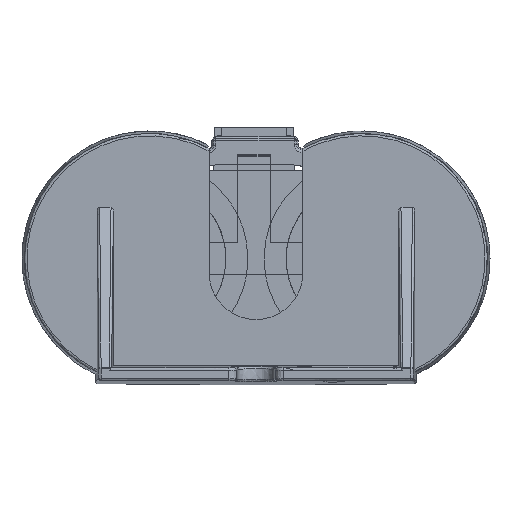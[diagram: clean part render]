
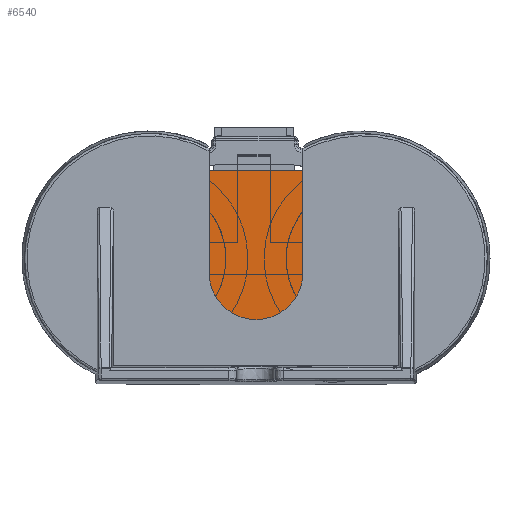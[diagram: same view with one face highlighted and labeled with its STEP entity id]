
A CAD part, left-side view. The second image highlights one B-rep face of the part: STEP entity #6540.
In plain terms, the highlighted free-form (B-spline) face has degree [3, 3] with [4, 4] control points.
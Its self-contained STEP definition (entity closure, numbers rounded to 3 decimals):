
#6230=CARTESIAN_POINT('',(8.9,-12.75,2.86));
#6231=CARTESIAN_POINT('',(8.9,-14.489,2.797));
#6232=CARTESIAN_POINT('',(8.9,-17.894,3.356));
#6233=CARTESIAN_POINT('',(8.9,-22.331,6.159));
#6234=CARTESIAN_POINT('',(8.9,-25.299,10.466));
#6235=CARTESIAN_POINT('',(8.9,-26.35,15.6));
#6236=CARTESIAN_POINT('',(8.9,-25.299,20.734));
#6237=CARTESIAN_POINT('',(8.9,-22.331,25.041));
#6238=CARTESIAN_POINT('',(8.9,-17.894,27.844));
#6239=CARTESIAN_POINT('',(8.9,-14.489,28.403));
#6240=CARTESIAN_POINT('',(8.9,-12.75,28.34));
#6254=CARTESIAN_POINT('',(8.9,-12.75,2.86));
#6255=CARTESIAN_POINT('',(8.9,-10.324,2.776));
#6256=CARTESIAN_POINT('',(8.9,-7.904,3.383));
#6257=CARTESIAN_POINT('',(8.9,-5.803,4.6));
#6259=CARTESIAN_POINT('',(8.9,6.803,4.6));
#6260=CARTESIAN_POINT('',(8.9,8.618,3.523));
#6261=CARTESIAN_POINT('',(8.9,13.12,2.305));
#6262=CARTESIAN_POINT('',(8.9,19.616,3.806));
#6263=CARTESIAN_POINT('',(8.9,25.048,9.178));
#6264=CARTESIAN_POINT('',(8.9,26.514,15.817));
#6265=CARTESIAN_POINT('',(8.9,24.941,21.815));
#6266=CARTESIAN_POINT('',(8.9,20.625,26.734));
#6267=CARTESIAN_POINT('',(8.9,13.595,29.071));
#6268=CARTESIAN_POINT('',(8.9,8.603,27.702));
#6269=CARTESIAN_POINT('',(8.9,6.803,26.6));
#6271=DIRECTION('',(0.,-1.,0.));
#6272=VECTOR('',#6271,12.606);
#6273=CARTESIAN_POINT('',(8.9,6.803,26.6));
#6274=LINE('',#6273,#6272);
#6275=CARTESIAN_POINT('',(8.9,-5.803,26.6));
#6276=CARTESIAN_POINT('',(8.9,-7.904,27.817));
#6277=CARTESIAN_POINT('',(8.9,-10.324,28.424));
#6278=CARTESIAN_POINT('',(8.9,-12.75,28.34));
#6288=DIRECTION('',(0.,1.,0.));
#6289=VECTOR('',#6288,12.606);
#6290=CARTESIAN_POINT('',(8.9,-5.803,4.6));
#6291=LINE('',#6290,#6289);
#6327=CARTESIAN_POINT('',(8.9,-12.75,28.34));
#6329=VERTEX_POINT('',#6327);
#6330=CARTESIAN_POINT('',(8.9,-12.75,2.86));
#6332=VERTEX_POINT('',#6330);
#6334=CARTESIAN_POINT('',(8.9,-5.803,26.6));
#6336=VERTEX_POINT('',#6334);
#6339=CARTESIAN_POINT('',(8.9,6.803,26.6));
#6341=VERTEX_POINT('',#6339);
#6342=VERTEX_POINT('',#6259);
#6345=VERTEX_POINT('',#6257);
#6513=CARTESIAN_POINT('',(8.9,27.064,28.86));
#6514=CARTESIAN_POINT('',(8.9,27.064,20.02));
#6515=CARTESIAN_POINT('',(8.9,27.064,11.18));
#6516=CARTESIAN_POINT('',(8.9,27.064,2.34));
#6517=CARTESIAN_POINT('',(8.9,9.029,28.86));
#6518=CARTESIAN_POINT('',(8.9,9.029,20.02));
#6519=CARTESIAN_POINT('',(8.9,9.029,11.18));
#6520=CARTESIAN_POINT('',(8.9,9.029,2.34));
#6521=CARTESIAN_POINT('',(8.9,-9.006,28.86));
#6522=CARTESIAN_POINT('',(8.9,-9.006,20.02));
#6523=CARTESIAN_POINT('',(8.9,-9.006,11.18));
#6524=CARTESIAN_POINT('',(8.9,-9.006,2.34));
#6525=CARTESIAN_POINT('',(8.9,-27.04,28.86));
#6526=CARTESIAN_POINT('',(8.9,-27.04,20.02));
#6527=CARTESIAN_POINT('',(8.9,-27.04,11.18));
#6528=CARTESIAN_POINT('',(8.9,-27.04,2.34));
#6529=B_SPLINE_SURFACE_WITH_KNOTS('',3,3,((#6513,#6514,#6515,#6516),(#6517,
#6518,#6519,#6520),(#6521,#6522,#6523,#6524),(#6525,#6526,#6527,#6528)),
.UNSPECIFIED.,.F.,.F.,.F.,(4,4),(4,4),(-13.814,40.29),(
-13.26,13.26),.UNSPECIFIED.);
#6531=ORIENTED_EDGE('',*,*,#6530,.T.);
#6533=ORIENTED_EDGE('',*,*,#6532,.T.);
#6534=ORIENTED_EDGE('',*,*,#6504,.T.);
#6535=ORIENTED_EDGE('',*,*,#6453,.T.);
#6536=ORIENTED_EDGE('',*,*,#6426,.T.);
#6537=ORIENTED_EDGE('',*,*,#6399,.F.);
#6538=EDGE_LOOP('',(#6531,#6533,#6534,#6535,#6536,#6537));
#6539=FACE_OUTER_BOUND('',#6538,.F.);
#6540=ADVANCED_FACE('',(#6539),#6529,.F.);
#6241=B_SPLINE_CURVE_WITH_KNOTS('',3,(#6230,#6231,#6232,#6233,#6234,#6235,#6236,
#6237,#6238,#6239,#6240),.UNSPECIFIED.,.F.,.F.,(4,1,1,1,1,1,1,1,4),(0.,
0.125,0.25,0.375,0.5,0.625,0.75,0.875,1.),.UNSPECIFIED.);
#6258=B_SPLINE_CURVE_WITH_KNOTS('',3,(#6254,#6255,#6256,#6257),.UNSPECIFIED.,
.F.,.F.,(4,4),(0.,1.),.UNSPECIFIED.);
#6270=B_SPLINE_CURVE_WITH_KNOTS('',3,(#6259,#6260,#6261,#6262,#6263,#6264,#6265,
#6266,#6267,#6268,#6269),.UNSPECIFIED.,.F.,.F.,(4,1,1,1,1,1,1,1,4),(0.,
0.125,0.25,0.375,0.5,0.625,0.75,0.875,1.),.UNSPECIFIED.);
#6279=B_SPLINE_CURVE_WITH_KNOTS('',3,(#6275,#6276,#6277,#6278),.UNSPECIFIED.,
.F.,.F.,(4,4),(0.,1.),.UNSPECIFIED.);
#6399=EDGE_CURVE('',#6332,#6329,#6241,.T.);
#6426=EDGE_CURVE('',#6336,#6329,#6279,.T.);
#6453=EDGE_CURVE('',#6341,#6336,#6274,.T.);
#6504=EDGE_CURVE('',#6342,#6341,#6270,.T.);
#6530=EDGE_CURVE('',#6332,#6345,#6258,.T.);
#6532=EDGE_CURVE('',#6345,#6342,#6291,.T.);
